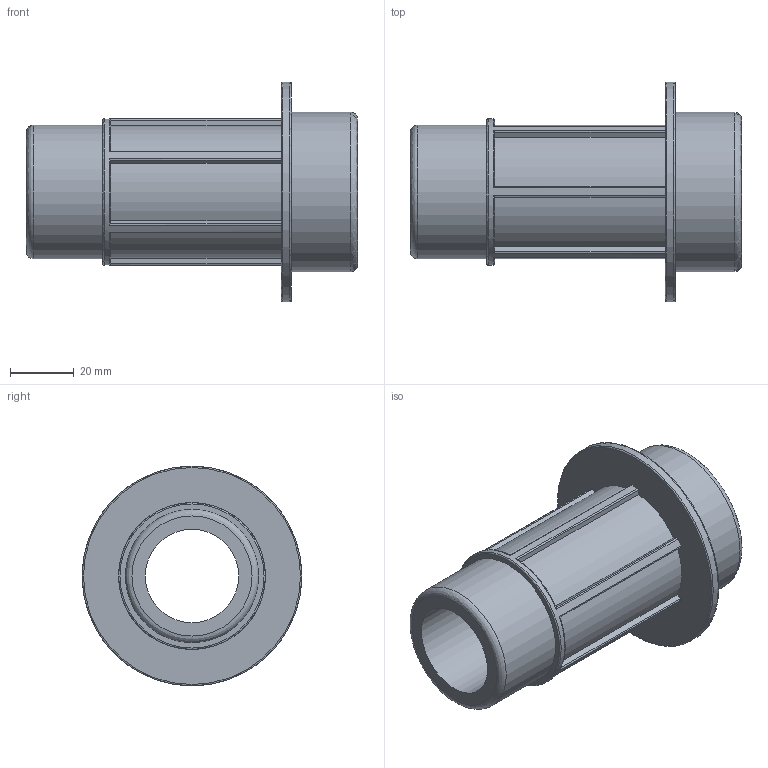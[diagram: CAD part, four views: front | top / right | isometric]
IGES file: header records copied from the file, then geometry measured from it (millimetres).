
Global section: file name: 078901050013.ipt; native system: Autodesk Inventor 2015; preprocessor: unknown; author: KIM; date: 20180409.130857; units: millimetre
Bounding box: 104 x 69 x 69 mm (x, y, z)
Volume: 95324.9 mm3; surface area: 31589.9 mm2
Topology: 1 solids, 1 shells, 57 faces, 163 edges, 111 vertices
Faces by surface type: plane 23, cylinder 22, revolution 12
Full cylindrical faces by diameter (mm): 41.91 x1, 46.101 x1, 50 x1, 69 x1
